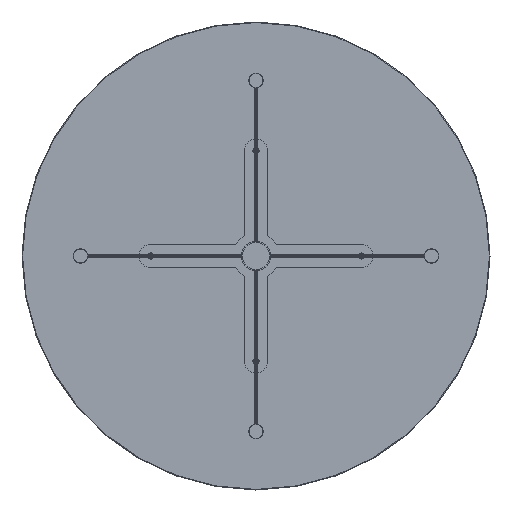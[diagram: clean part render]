
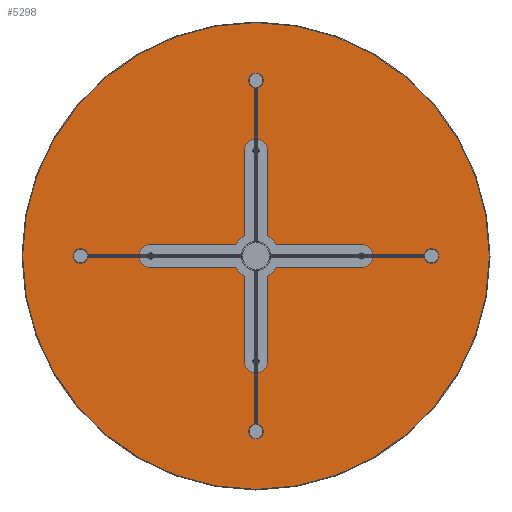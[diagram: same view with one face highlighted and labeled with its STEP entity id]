
A CAD part, front view. The second image highlights one B-rep face of the part: STEP entity #5298.
In plain terms, the highlighted planar face has unit normal (0, -1, 0).
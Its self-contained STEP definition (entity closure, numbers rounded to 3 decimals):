
#189 = VERTEX_POINT ( 'NONE', #1596 ) ;
#309 = CIRCLE ( 'NONE', #10606, 3. ) ;
#447 = CARTESIAN_POINT ( 'NONE',  ( -180., -10., 0. ) ) ;
#549 = CARTESIAN_POINT ( 'NONE',  ( 0., -10., -183. ) ) ;
#792 = CARTESIAN_POINT ( 'NONE',  ( 180., -10., 0. ) ) ;
#850 = DIRECTION ( 'NONE',  ( 0., 0., -1. ) ) ;
#1073 = CARTESIAN_POINT ( 'NONE',  ( 0., -10., -180. ) ) ;
#1299 = DIRECTION ( 'NONE',  ( 0., 0., -1. ) ) ;
#1374 = CARTESIAN_POINT ( 'NONE',  ( 0., -10., 180. ) ) ;
#1478 = CARTESIAN_POINT ( 'NONE',  ( 0., -10., 0. ) ) ;
#1596 = CARTESIAN_POINT ( 'NONE',  ( 0., -10., 399. ) ) ;
#1597 = DIRECTION ( 'NONE',  ( 0., 0., -1. ) ) ;
#1667 = CARTESIAN_POINT ( 'NONE',  ( 180., -10., -3. ) ) ;
#1707 = CARTESIAN_POINT ( 'NONE',  ( -180., -10., 0. ) ) ;
#1789 = FACE_BOUND ( 'NONE', #4813, .T. ) ;
#1855 = VERTEX_POINT ( 'NONE', #10169 ) ;
#1896 = DIRECTION ( 'NONE',  ( 0., 1., 0. ) ) ;
#1899 = EDGE_CURVE ( 'NONE', #8289, #7632, #309, .T. ) ;
#2008 = CARTESIAN_POINT ( 'NONE',  ( 0., -10., -399. ) ) ;
#2052 = ORIENTED_EDGE ( 'NONE', *, *, #4998, .F. ) ;
#2085 = ORIENTED_EDGE ( 'NONE', *, *, #1899, .F. ) ;
#2252 = ORIENTED_EDGE ( 'NONE', *, *, #9288, .F. ) ;
#2287 = CIRCLE ( 'NONE', #8734, 399. ) ;
#2392 = DIRECTION ( 'NONE',  ( 0., -1., 0. ) ) ;
#2453 = VERTEX_POINT ( 'NONE', #1667 ) ;
#2571 = DIRECTION ( 'NONE',  ( 0., -1., 0. ) ) ;
#2618 = CIRCLE ( 'NONE', #3159, 3. ) ;
#2846 = DIRECTION ( 'NONE',  ( 0., -1., 0. ) ) ;
#2879 = ORIENTED_EDGE ( 'NONE', *, *, #6242, .F. ) ;
#2992 = CARTESIAN_POINT ( 'NONE',  ( 0., -10., 180. ) ) ;
#3017 = CARTESIAN_POINT ( 'NONE',  ( 0., -10., 0. ) ) ;
#3159 = AXIS2_PLACEMENT_3D ( 'NONE', #2992, #6517, #10676 ) ;
#3223 = ORIENTED_EDGE ( 'NONE', *, *, #6383, .T. ) ;
#3700 = CARTESIAN_POINT ( 'NONE',  ( 0., -10., 177. ) ) ;
#4533 = CARTESIAN_POINT ( 'NONE',  ( 180., -10., 3. ) ) ;
#4597 = VERTEX_POINT ( 'NONE', #2008 ) ;
#4714 = VERTEX_POINT ( 'NONE', #4533 ) ;
#4754 = CIRCLE ( 'NONE', #8436, 3. ) ;
#4813 = EDGE_LOOP ( 'NONE', ( #9139, #10266 ) ) ;
#4855 = CIRCLE ( 'NONE', #11318, 3. ) ;
#4941 = AXIS2_PLACEMENT_3D ( 'NONE', #792, #9539, #1597 ) ;
#4998 = EDGE_CURVE ( 'NONE', #7632, #8289, #4754, .T. ) ;
#5005 = CARTESIAN_POINT ( 'NONE',  ( -180., -10., -3. ) ) ;
#5087 = EDGE_CURVE ( 'NONE', #2453, #4714, #5496, .T. ) ;
#5177 = CARTESIAN_POINT ( 'NONE',  ( 180., -10., 0. ) ) ;
#5298 = ADVANCED_FACE ( 'NONE', ( #7151, #1789, #8067, #5303, #8815 ), #10665, .F. ) ;
#5303 = FACE_BOUND ( 'NONE', #7042, .T. ) ;
#5410 = DIRECTION ( 'NONE',  ( 0., 0., 1. ) ) ;
#5413 = AXIS2_PLACEMENT_3D ( 'NONE', #5177, #8689, #11298 ) ;
#5496 = CIRCLE ( 'NONE', #4941, 3. ) ;
#5857 = DIRECTION ( 'NONE',  ( 0., 0., 1. ) ) ;
#5970 = VERTEX_POINT ( 'NONE', #7308 ) ;
#6225 = EDGE_LOOP ( 'NONE', ( #2879, #2252 ) ) ;
#6242 = EDGE_CURVE ( 'NONE', #10293, #1855, #9096, .T. ) ;
#6250 = EDGE_LOOP ( 'NONE', ( #9111, #7779 ) ) ;
#6364 = DIRECTION ( 'NONE',  ( 0., 0., -1. ) ) ;
#6383 = EDGE_CURVE ( 'NONE', #189, #4597, #7821, .T. ) ;
#6475 = EDGE_CURVE ( 'NONE', #4597, #189, #2287, .T. ) ;
#6517 = DIRECTION ( 'NONE',  ( 0., -1., 0. ) ) ;
#6543 = DIRECTION ( 'NONE',  ( 0., -1., 0. ) ) ;
#6900 = AXIS2_PLACEMENT_3D ( 'NONE', #9811, #9871, #6364 ) ;
#7042 = EDGE_LOOP ( 'NONE', ( #2085, #2052 ) ) ;
#7151 = FACE_OUTER_BOUND ( 'NONE', #10045, .T. ) ;
#7308 = CARTESIAN_POINT ( 'NONE',  ( 0., -10., 183. ) ) ;
#7392 = ORIENTED_EDGE ( 'NONE', *, *, #6475, .T. ) ;
#7482 = EDGE_CURVE ( 'NONE', #5970, #9108, #2618, .T. ) ;
#7501 = CARTESIAN_POINT ( 'NONE',  ( -180., -10., 3. ) ) ;
#7525 = DIRECTION ( 'NONE',  ( 0., -1., 0. ) ) ;
#7632 = VERTEX_POINT ( 'NONE', #7501 ) ;
#7779 = ORIENTED_EDGE ( 'NONE', *, *, #7482, .F. ) ;
#7821 = CIRCLE ( 'NONE', #10381, 399. ) ;
#8067 = FACE_BOUND ( 'NONE', #6250, .T. ) ;
#8178 = CIRCLE ( 'NONE', #5413, 3. ) ;
#8179 = AXIS2_PLACEMENT_3D ( 'NONE', #1073, #2846, #1299 ) ;
#8255 = AXIS2_PLACEMENT_3D ( 'NONE', #9784, #1896, #5410 ) ;
#8280 = EDGE_CURVE ( 'NONE', #9108, #5970, #4855, .T. ) ;
#8289 = VERTEX_POINT ( 'NONE', #5005 ) ;
#8436 = AXIS2_PLACEMENT_3D ( 'NONE', #1707, #2571, #850 ) ;
#8495 = DIRECTION ( 'NONE',  ( 0., 0., -1. ) ) ;
#8531 = EDGE_CURVE ( 'NONE', #4714, #2453, #8178, .T. ) ;
#8548 = CIRCLE ( 'NONE', #6900, 3. ) ;
#8689 = DIRECTION ( 'NONE',  ( 0., -1., 0. ) ) ;
#8734 = AXIS2_PLACEMENT_3D ( 'NONE', #1478, #2392, #5857 ) ;
#8815 = FACE_BOUND ( 'NONE', #6225, .T. ) ;
#9096 = CIRCLE ( 'NONE', #8179, 3. ) ;
#9108 = VERTEX_POINT ( 'NONE', #3700 ) ;
#9111 = ORIENTED_EDGE ( 'NONE', *, *, #8280, .F. ) ;
#9139 = ORIENTED_EDGE ( 'NONE', *, *, #5087, .F. ) ;
#9288 = EDGE_CURVE ( 'NONE', #1855, #10293, #8548, .T. ) ;
#9539 = DIRECTION ( 'NONE',  ( 0., -1., 0. ) ) ;
#9784 = CARTESIAN_POINT ( 'NONE',  ( 0., -10., 0. ) ) ;
#9811 = CARTESIAN_POINT ( 'NONE',  ( 0., -10., -180. ) ) ;
#9871 = DIRECTION ( 'NONE',  ( 0., -1., 0. ) ) ;
#10045 = EDGE_LOOP ( 'NONE', ( #3223, #7392 ) ) ;
#10169 = CARTESIAN_POINT ( 'NONE',  ( 0., -10., -177. ) ) ;
#10251 = DIRECTION ( 'NONE',  ( 0., -1., 0. ) ) ;
#10266 = ORIENTED_EDGE ( 'NONE', *, *, #8531, .F. ) ;
#10293 = VERTEX_POINT ( 'NONE', #549 ) ;
#10381 = AXIS2_PLACEMENT_3D ( 'NONE', #3017, #6543, #11043 ) ;
#10606 = AXIS2_PLACEMENT_3D ( 'NONE', #447, #7525, #8495 ) ;
#10665 = PLANE ( 'NONE',  #8255 ) ;
#10676 = DIRECTION ( 'NONE',  ( 0., 0., -1. ) ) ;
#11043 = DIRECTION ( 'NONE',  ( 0., 0., 1. ) ) ;
#11187 = DIRECTION ( 'NONE',  ( 0., 0., -1. ) ) ;
#11298 = DIRECTION ( 'NONE',  ( 0., 0., -1. ) ) ;
#11318 = AXIS2_PLACEMENT_3D ( 'NONE', #1374, #10251, #11187 ) ;
